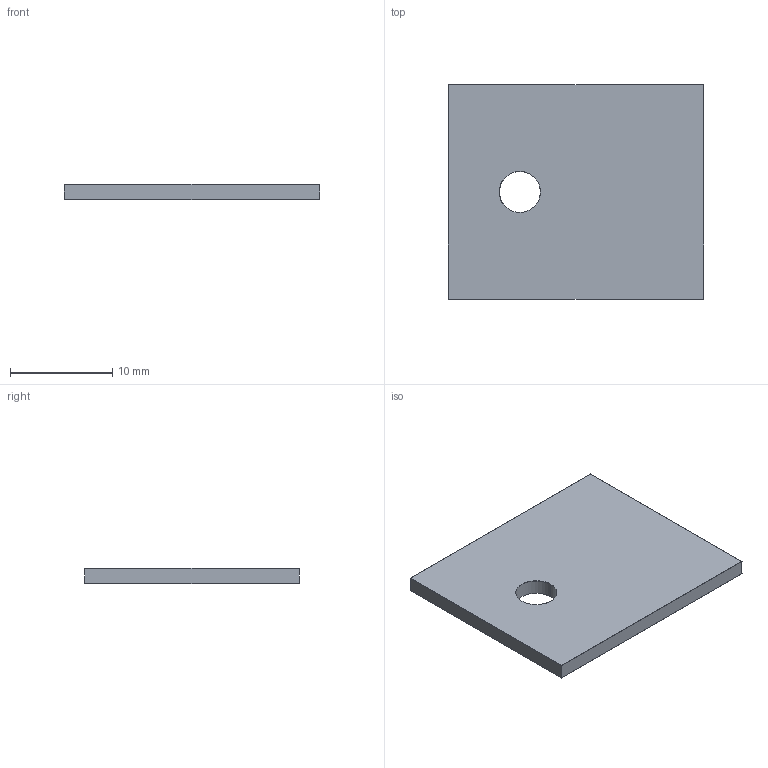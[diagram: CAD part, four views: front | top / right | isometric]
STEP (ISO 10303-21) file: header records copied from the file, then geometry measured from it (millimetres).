
FILE_DESCRIPTION (( 'STEP AP214' ), '1' );
FILE_NAME ('AO 480_3.STEP', '2004-04-06T11:38:24', ( '' ), ( '' ), 'SwSTEP 2.0', 'SolidWorks 2002349', '' );
FILE_SCHEMA (( 'AUTOMOTIVE_DESIGN' ));
Length unit declared in the file: millimetre
Products named in the file (1): AO 480_3
Bounding box: 25 x 21 x 1.5 mm (x, y, z)
Volume: 768.6 mm3; surface area: 1179.9 mm2
Topology: 1 solids, 1 shells, 32 faces, 70 edges, 32 vertices
Faces by surface type: cylinder 14, sphere 8, plane 6, torus 4
Entity records: 825 total; most frequent: DIRECTION 164, CARTESIAN_POINT 127, ORIENTED_EDGE 124, AXIS2_PLACEMENT_3D 69, EDGE_CURVE 62, CIRCLE 36, EDGE_LOOP 34, FACE_OUTER_BOUND 32
